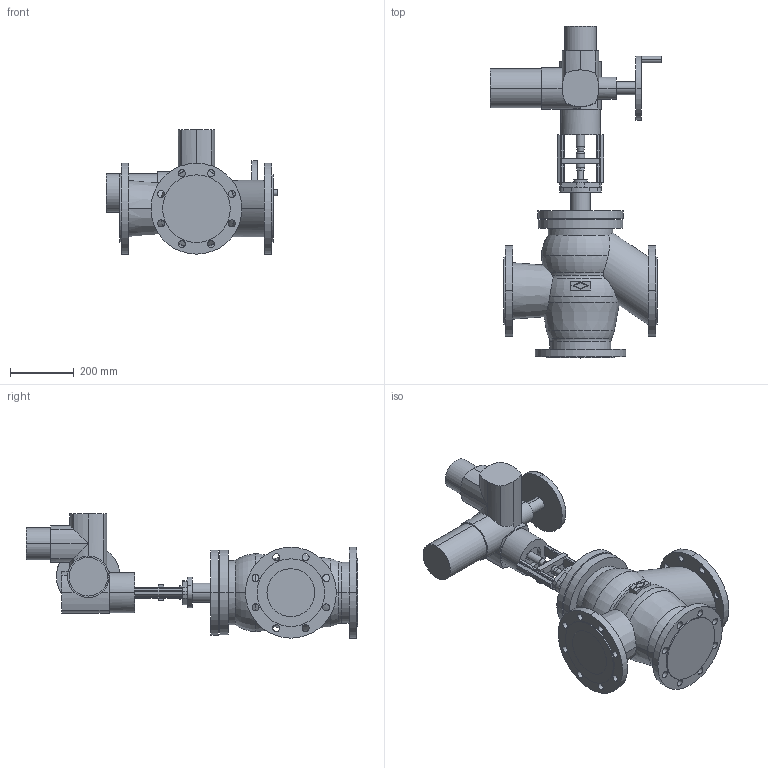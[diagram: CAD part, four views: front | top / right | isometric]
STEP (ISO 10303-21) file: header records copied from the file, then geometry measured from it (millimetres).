
FILE_DESCRIPTION(('OneSpaceDesigner STEP Export'),'2;1');
FILE_NAME('c000003163.stp','2007-01-26T12:35:41',(''),(''),'OneSpace Designer STEP processor for AP214 (Solid Model)','OneSpace Designer 14.00B 27-May-2006 (C) CoCreate Software GmbH','');
FILE_SCHEMA(('AUTOMOTIVE_DESIGN { 1 0 10303 214 1 1 1 1 }'));
Length unit declared in the file: millimetre
Products named in the file (2): 1; 2
Bounding box: 536 x 1040 x 389.5 mm (x, y, z)
Volume: 39166675.1 mm3; surface area: 1473474.2 mm2
Topology: 2 solids, 2 shells, 326 faces, 826 edges, 525 vertices
Faces by surface type: cylinder 166, plane 136, torus 16, cone 8
Entity records: 9442 total; most frequent: CARTESIAN_POINT 2136, ORIENTED_EDGE 1652, DIRECTION 1338, EDGE_CURVE 826, VERTEX_POINT 525, AXIS2_PLACEMENT_3D 471, EDGE_LOOP 407, VECTOR 396
